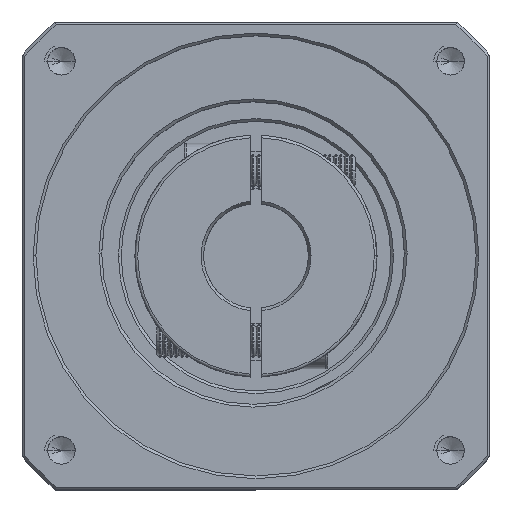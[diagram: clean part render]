
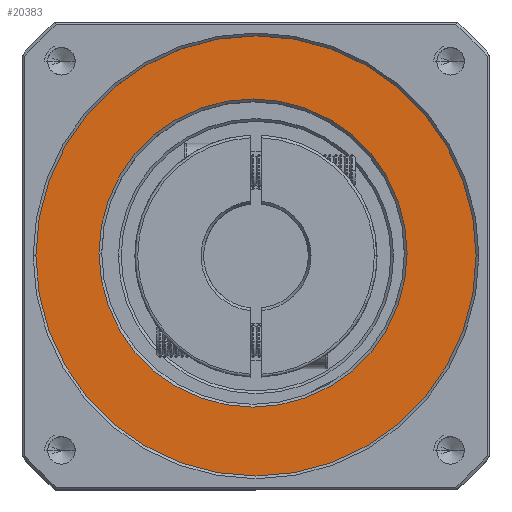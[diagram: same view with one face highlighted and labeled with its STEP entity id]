
A CAD part, top view. The second image highlights one B-rep face of the part: STEP entity #20383.
In plain terms, the highlighted planar face has unit normal (0, 0, 1).
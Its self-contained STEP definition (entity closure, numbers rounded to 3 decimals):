
#214 = EDGE_LOOP ( 'NONE', ( #49824, #69011 ) ) ;
#976 = FACE_OUTER_BOUND ( 'NONE', #30298, .T. ) ;
#2869 = DIRECTION ( 'NONE',  ( 0., 0., 1. ) ) ;
#7156 = AXIS2_PLACEMENT_3D ( 'NONE', #106156, #50108, #115404 ) ;
#16760 = ORIENTED_EDGE ( 'NONE', *, *, #20546, .T. ) ;
#18017 = CIRCLE ( 'NONE', #42518, 28. ) ;
#19233 = PLANE ( 'NONE',  #45388 ) ;
#20383 = ADVANCED_FACE ( 'NONE', ( #976, #25774 ), #19233, .T. ) ;
#20546 = EDGE_CURVE ( 'NONE', #78032, #21516, #90085, .T. ) ;
#21290 = VERTEX_POINT ( 'NONE', #107602 ) ;
#21516 = VERTEX_POINT ( 'NONE', #92918 ) ;
#25774 = FACE_BOUND ( 'NONE', #214, .T. ) ;
#26002 = CARTESIAN_POINT ( 'NONE',  ( -37.067, 68.253, -61.843 ) ) ;
#28139 = CARTESIAN_POINT ( 'NONE',  ( -37.609, 68.787, -61.843 ) ) ;
#29041 = DIRECTION ( 'NONE',  ( 0., 0., 1. ) ) ;
#30298 = EDGE_LOOP ( 'NONE', ( #16760, #63738 ) ) ;
#32821 = CARTESIAN_POINT ( 'NONE',  ( 2.933, 68.253, -61.843 ) ) ;
#35367 = DIRECTION ( 'NONE',  ( 1., 0., 0. ) ) ;
#37568 = DIRECTION ( 'NONE',  ( 1., 0., 0. ) ) ;
#42518 = AXIS2_PLACEMENT_3D ( 'NONE', #28139, #93572, #37568 ) ;
#45388 = AXIS2_PLACEMENT_3D ( 'NONE', #85098, #29041, #94461 ) ;
#46297 = VERTEX_POINT ( 'NONE', #84089 ) ;
#46931 = EDGE_CURVE ( 'NONE', #21516, #78032, #82579, .T. ) ;
#48726 = EDGE_CURVE ( 'NONE', #21290, #46297, #18017, .T. ) ;
#49824 = ORIENTED_EDGE ( 'NONE', *, *, #48726, .T. ) ;
#50108 = DIRECTION ( 'NONE',  ( 0., 0., -1. ) ) ;
#58879 = CARTESIAN_POINT ( 'NONE',  ( -37.067, 68.253, -61.843 ) ) ;
#63738 = ORIENTED_EDGE ( 'NONE', *, *, #46931, .T. ) ;
#68321 = DIRECTION ( 'NONE',  ( 1., 0., 0. ) ) ;
#69011 = ORIENTED_EDGE ( 'NONE', *, *, #87769, .T. ) ;
#78032 = VERTEX_POINT ( 'NONE', #32821 ) ;
#82579 = CIRCLE ( 'NONE', #105745, 40. ) ;
#84089 = CARTESIAN_POINT ( 'NONE',  ( -65.609, 68.787, -61.843 ) ) ;
#85098 = CARTESIAN_POINT ( 'NONE',  ( -37.067, 68.253, -61.843 ) ) ;
#87769 = EDGE_CURVE ( 'NONE', #46297, #21290, #99283, .T. ) ;
#90085 = CIRCLE ( 'NONE', #120380, 40. ) ;
#91413 = DIRECTION ( 'NONE',  ( 0., 0., 1. ) ) ;
#92918 = CARTESIAN_POINT ( 'NONE',  ( -77.067, 68.253, -61.843 ) ) ;
#93572 = DIRECTION ( 'NONE',  ( 0., 0., -1. ) ) ;
#94461 = DIRECTION ( 'NONE',  ( 1., 0., 0. ) ) ;
#99283 = CIRCLE ( 'NONE', #7156, 28. ) ;
#105745 = AXIS2_PLACEMENT_3D ( 'NONE', #26002, #91413, #35367 ) ;
#106156 = CARTESIAN_POINT ( 'NONE',  ( -37.609, 68.787, -61.843 ) ) ;
#107602 = CARTESIAN_POINT ( 'NONE',  ( -9.609, 68.787, -61.843 ) ) ;
#115404 = DIRECTION ( 'NONE',  ( 1., 0., 0. ) ) ;
#120380 = AXIS2_PLACEMENT_3D ( 'NONE', #58879, #2869, #68321 ) ;
